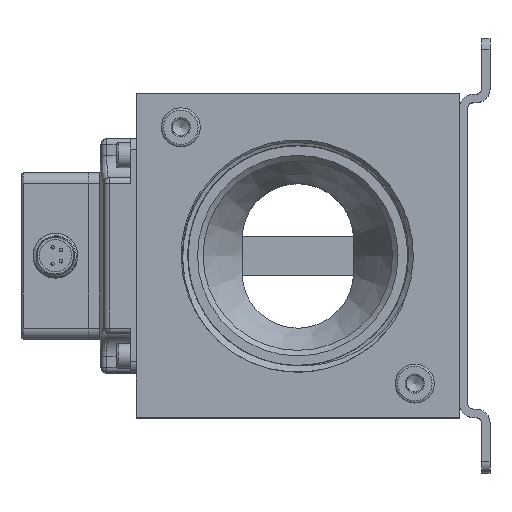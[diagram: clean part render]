
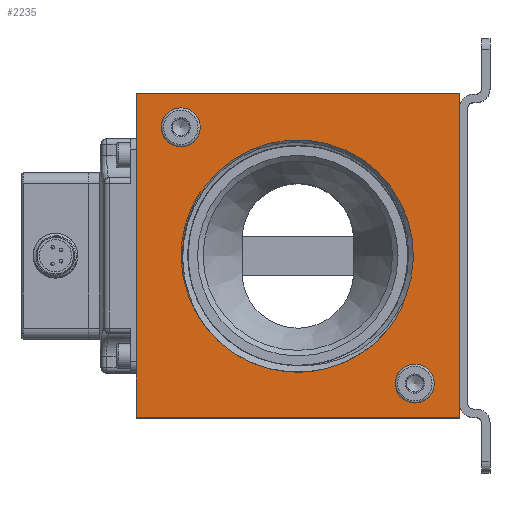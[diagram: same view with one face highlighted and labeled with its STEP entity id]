
A CAD part, top view. The second image highlights one B-rep face of the part: STEP entity #2235.
In plain terms, the highlighted planar face has unit normal (0, 0, 1).
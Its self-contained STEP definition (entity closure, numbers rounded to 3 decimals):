
#528=PLANE('',#27958);
#1544=FACE_BOUND('',#5494,.T.);
#1545=FACE_BOUND('',#5495,.T.);
#1546=FACE_BOUND('',#5496,.T.);
#1547=FACE_BOUND('',#5497,.T.);
#2235=ADVANCED_FACE('',(#1544,#1545,#1546,#1547),#528,.F.);
#5494=EDGE_LOOP('',(#8760));
#5495=EDGE_LOOP('',(#8761,#8762,#8763,#8764));
#5496=EDGE_LOOP('',(#8765));
#5497=EDGE_LOOP('',(#8766,#8767,#8768,#8769));
#7488=B_SPLINE_CURVE_WITH_KNOTS('',3,(#38086,#38087,#38088,#38089),
 .UNSPECIFIED.,.F.,.F.,(4,4),(0.,1.),.UNSPECIFIED.);
#7489=B_SPLINE_CURVE_WITH_KNOTS('',3,(#38094,#38095,#38096,#38097),
 .UNSPECIFIED.,.F.,.F.,(4,4),(0.,1.),.UNSPECIFIED.);
#7940=CIRCLE('',#27954,3.5);
#7941=CIRCLE('',#27955,3.5);
#7942=CIRCLE('',#27956,20.75);
#7943=CIRCLE('',#27957,20.955);
#8760=ORIENTED_EDGE('',*,*,#18907,.T.);
#8761=ORIENTED_EDGE('',*,*,#18908,.F.);
#8762=ORIENTED_EDGE('',*,*,#18909,.F.);
#8763=ORIENTED_EDGE('',*,*,#18910,.F.);
#8764=ORIENTED_EDGE('',*,*,#18911,.F.);
#8765=ORIENTED_EDGE('',*,*,#18912,.T.);
#8766=ORIENTED_EDGE('',*,*,#18913,.F.);
#8767=ORIENTED_EDGE('',*,*,#18914,.T.);
#8768=ORIENTED_EDGE('',*,*,#18915,.F.);
#8769=ORIENTED_EDGE('',*,*,#18916,.F.);
#16360=VERTEX_POINT('',#38075);
#16361=VERTEX_POINT('',#38077);
#16362=VERTEX_POINT('',#38078);
#16363=VERTEX_POINT('',#38080);
#16364=VERTEX_POINT('',#38082);
#16365=VERTEX_POINT('',#38085);
#16366=VERTEX_POINT('',#38090);
#16367=VERTEX_POINT('',#38091);
#16368=VERTEX_POINT('',#38093);
#16369=VERTEX_POINT('',#38098);
#18907=EDGE_CURVE('',#16360,#16360,#7940,.T.);
#18908=EDGE_CURVE('',#16361,#16362,#22703,.T.);
#18909=EDGE_CURVE('',#16363,#16361,#22704,.T.);
#18910=EDGE_CURVE('',#16364,#16363,#22705,.T.);
#18911=EDGE_CURVE('',#16362,#16364,#22706,.T.);
#18912=EDGE_CURVE('',#16365,#16365,#7941,.T.);
#18913=EDGE_CURVE('',#16366,#16367,#7488,.T.);
#18914=EDGE_CURVE('',#16366,#16368,#7942,.T.);
#18915=EDGE_CURVE('',#16369,#16368,#7489,.T.);
#18916=EDGE_CURVE('',#16367,#16369,#7943,.T.);
#22703=LINE('',#38076,#25283);
#22704=LINE('',#38079,#25284);
#22705=LINE('',#38081,#25285);
#22706=LINE('',#38083,#25286);
#25283=VECTOR('',#30335,1.);
#25284=VECTOR('',#30336,1.);
#25285=VECTOR('',#30337,1.);
#25286=VECTOR('',#30338,1.);
#27954=AXIS2_PLACEMENT_3D('',#38074,#30333,#30334);
#27955=AXIS2_PLACEMENT_3D('',#38084,#30339,#30340);
#27956=AXIS2_PLACEMENT_3D('',#38092,#30341,#30342);
#27957=AXIS2_PLACEMENT_3D('',#38099,#30343,#30344);
#27958=AXIS2_PLACEMENT_3D('',#38100,#30345,#30346);
#30333=DIRECTION('',(0.,0.,-1.));
#30334=DIRECTION('',(-1.,0.,0.));
#30335=DIRECTION('',(-1.,0.,0.));
#30336=DIRECTION('',(0.,-1.,0.));
#30337=DIRECTION('',(1.,0.,0.));
#30338=DIRECTION('',(0.,1.,0.));
#30339=DIRECTION('',(0.,0.,-1.));
#30340=DIRECTION('',(-1.,0.,0.));
#30341=DIRECTION('',(0.,0.,-1.));
#30342=DIRECTION('',(-1.,0.,0.));
#30343=DIRECTION('',(0.,0.,1.));
#30344=DIRECTION('',(-1.,0.,0.));
#30345=DIRECTION('',(0.,0.,-1.));
#30346=DIRECTION('',(1.,0.,0.));
#38074=CARTESIAN_POINT('',(50.5,4.5,14.));
#38075=CARTESIAN_POINT('',(47.,4.5,14.));
#38076=CARTESIAN_POINT('',(29.5,-1.5,14.));
#38077=CARTESIAN_POINT('',(58.5,-1.5,14.));
#38078=CARTESIAN_POINT('',(0.5,-1.5,14.));
#38079=CARTESIAN_POINT('',(58.5,27.5,14.));
#38080=CARTESIAN_POINT('',(58.5,56.5,14.));
#38081=CARTESIAN_POINT('',(29.5,56.5,14.));
#38082=CARTESIAN_POINT('',(0.5,56.5,14.));
#38083=CARTESIAN_POINT('',(0.5,27.5,14.));
#38084=CARTESIAN_POINT('',(8.5,50.5,14.));
#38085=CARTESIAN_POINT('',(5.,50.5,14.));
#38086=CARTESIAN_POINT('',(10.117,20.092,14.));
#38087=CARTESIAN_POINT('',(10.778,18.169,14.));
#38088=CARTESIAN_POINT('',(11.718,16.358,14.));
#38089=CARTESIAN_POINT('',(12.904,14.707,14.));
#38090=CARTESIAN_POINT('',(10.117,20.092,14.));
#38091=CARTESIAN_POINT('',(12.904,14.707,14.));
#38092=CARTESIAN_POINT('',(29.5,27.5,14.));
#38093=CARTESIAN_POINT('',(48.883,20.092,14.));
#38094=CARTESIAN_POINT('',(46.096,14.707,14.));
#38095=CARTESIAN_POINT('',(47.282,16.358,14.));
#38096=CARTESIAN_POINT('',(48.222,18.169,14.));
#38097=CARTESIAN_POINT('',(48.883,20.092,14.));
#38098=CARTESIAN_POINT('',(46.096,14.707,14.));
#38099=CARTESIAN_POINT('',(29.5,27.5,14.));
#38100=CARTESIAN_POINT('',(29.5,27.5,14.));
